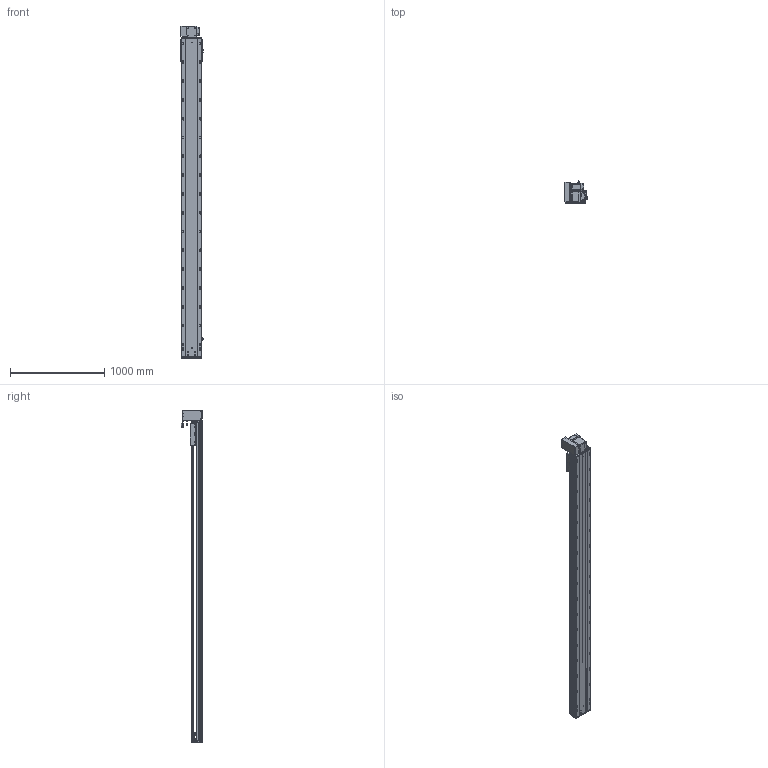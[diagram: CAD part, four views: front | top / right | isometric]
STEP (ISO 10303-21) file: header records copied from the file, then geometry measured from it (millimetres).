
FILE_DESCRIPTION (( 'STEP AP203' ), '1' );
FILE_NAME ('RY220-T-300-UL.SLDASM_3050.step', '2022-07-25T08:36:27', ( '' ), ( '' ), 'SwSTEP 2.0', 'SolidWorks 2016', '' );
FILE_SCHEMA (( 'CONFIG_CONTROL_DESIGN' ));
Length unit declared in the file: millimetre
Products named in the file (14): RY220-T菁釱-300_3050; RY220-同步轮副支撑座6304×2; RY220翋肮祭謫釱; RY220-T-蛌殏萇儂假蚾啣(750W); RY220-俋离672覜茼んえ; RY220翋肮祭謫裔啣; RY220-T-300-UL.SLDASM_3050; RY220圉猾敕々湍臏賑輸; 滅袉蝶18-15; RY220-T-300-奻裔啣_3050; RY220-T-湍謫欶(鍼踢); 覜茼ん672; 110A-T-肮祭謫釱傷裔; 怢湛750W_ECMA-CX0807ES
Assembly tree (18 placements, depth 2):
  RY220-T-300-UL.SLDASM_3050
    RY220-T菁釱-300_3050
    RY220翋肮祭謫釱
    覜茼ん672  x3
    RY220圉猾敕々湍臏賑輸
    RY220-T-300-奻裔啣_3050
    RY220-俋离672覜茼んえ
    滅袉蝶18-15  x3
    RY220翋肮祭謫裔啣  x2
    110A-T-肮祭謫釱傷裔
    怢湛750W_ECMA-CX0807ES
    RY220-T-湍謫欶(鍼踢)
    RY220-T-蛌殏萇儂假蚾啣(750W)
    RY220-同步轮副支撑座6304×2
Bounding box: 239.7 x 231.74 x 3530.5 mm (x, y, z)
Volume: 25523410.8 mm3; surface area: 7905398.2 mm2
Topology: 19 solids, 19 shells, 3050 faces, 8443 edges, 5282 vertices
Faces by surface type: cylinder 1514, plane 1069, cone 385, bspline 56, sphere 16, torus 10
Entity records: 101827 total; most frequent: CARTESIAN_POINT 28715, ORIENTED_EDGE 15098, DIRECTION 14608, EDGE_CURVE 7549, AXIS2_PLACEMENT_3D 5284, VERTEX_POINT 4906, VECTOR 4040, LINE 4040
